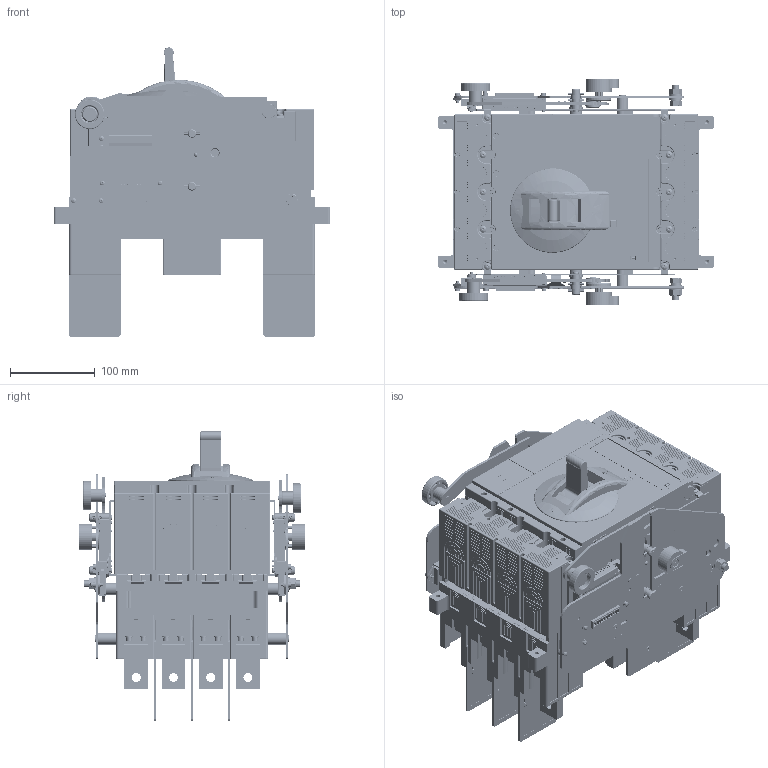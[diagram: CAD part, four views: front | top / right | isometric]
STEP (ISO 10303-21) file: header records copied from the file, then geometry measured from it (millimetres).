
FILE_DESCRIPTION(/* description */ (''),/* implementation_level */ '2;1');
FILE_NAME(/* name */ 'CM5-630 四极抽出式.stp',/* time_stamp */ '2022-03-02T13:18:40+08:00',/* author */ (''),/* organization */ (''),/* preprocessor_version */ 'ST-DEVELOPER v16.7',/* originating_system */ 'SIEMENS PLM Software NX 12.0',/* authorisation */ '');
FILE_SCHEMA (('AUTOMOTIVE_DESIGN { 1 0 10303 214 3 1 1 1 }'));
Products named in the file (1): _model1
Bounding box: 327 x 267.23 x 342.1 mm (x, y, z)
Volume: 7793155.2 mm3; surface area: 1429268 mm2
Topology: 7 solids, 176 shells, 17961 faces, 48857 edges, 31251 vertices
Faces by surface type: plane 11037, cylinder 4979, cone 791, torus 547, sphere 287, extrusion 196, bspline 124
Full cylindrical faces by diameter (mm): 0.9 x22, 1 x2, 1.1 x22, 1.2 x34, 1.4 x2, 1.6 x2, 2.1 x4, 2.2 x4, 2.3 x4, 2.4 x4, 2.5 x22, 2.52 x1, 2.55 x1, 3 x86, 3.1 x8, 3.2 x50, 3.3 x14, 3.5 x48, 4 x80, 4.3 x76, 4.5 x32, 5 x15, 5.1 x2, 5.188 x6, 5.2 x13, 5.23 x8, 5.5 x12, 5.6 x16, 5.8 x8, 6 x20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
Entity records: 570943 total; most frequent: CARTESIAN_POINT 119400, ORIENTED_EDGE 93106, DIRECTION 92953, EDGE_CURVE 46553, VECTOR 31641, LINE 31445, AXIS2_PLACEMENT_3D 30656, VERTEX_POINT 30442
